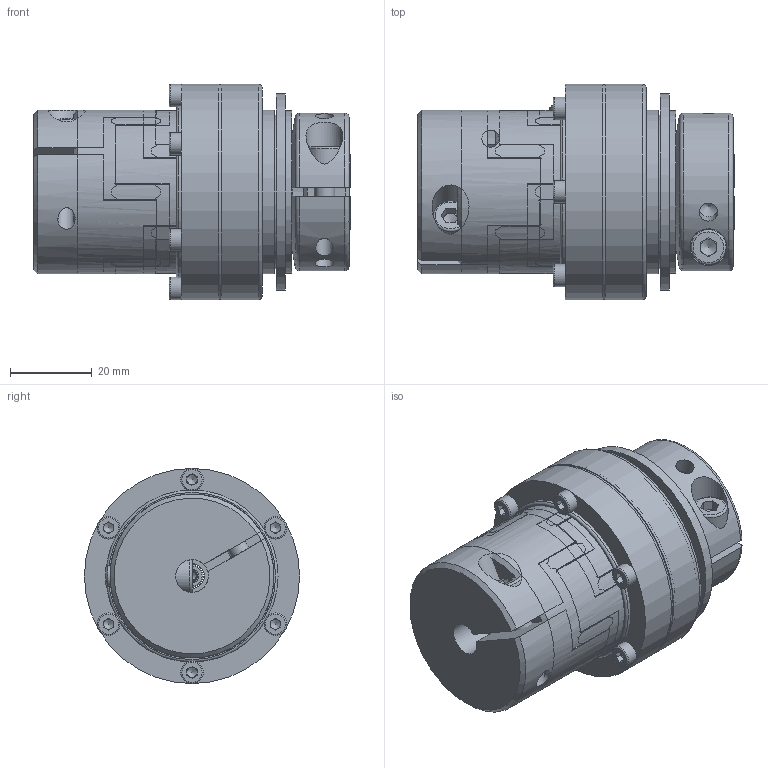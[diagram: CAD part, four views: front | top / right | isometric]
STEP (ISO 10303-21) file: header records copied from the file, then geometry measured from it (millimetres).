
FILE_DESCRIPTION( ( 'Unknown' ), '1' );
FILE_NAME( 'F:/JAKOB-STEP+IGES-Dateien/STEP-Dateien/SKB-EK/SKB-EK 12.stp', 'Unknown', ( 'Unknown' ), ( 'Unknown' ), 'XStep 1.0', 'Unknown', ' ' );
FILE_SCHEMA( ( 'CONFIG_CONTROL_DESIGN' ) );
Length unit declared in the file: millimetre
Products named in the file (16): SKB 12; Assem1; 23917257; KT101911; KT102579; KT102397; KT100050; Elastomerteil 1; kt102551
Bounding box: 77.2 x 52.5 x 52.5 mm (x, y, z)
Surface area: 117717.8 mm2
Topology: 34 solids, 34 shells, 1239 faces, 3316 edges, 2121 vertices
Faces by surface type: plane 495, cylinder 397, cone 180, torus 137, sphere 30
Full cylindrical faces by diameter (mm): 1.5 x6, 2.5 x18, 3 x24, 3.3 x3, 3.4 x12, 4 x3, 4.2 x5, 4.5 x9, 5 x5, 5.4 x2, 5.5 x15, 6 x3, 8.5 x5, 9 x5, 9.5 x2, 18 x4, 19 x3, 19.9 x3, 20 x6, 24 x2, 25.4 x3, 27.2 x6, 35.1 x6, 37.6 x6, 39.6 x3, 39.9 x3, 40 x2, 42 x8, 48 x3, 52 x3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
Entity records: 17252 total; most frequent: CARTESIAN_POINT 4389, DIRECTION 2574, ORIENTED_EDGE 2354, EDGE_CURVE 1177, AXIS2_PLACEMENT_3D 1072, VERTEX_POINT 819, EDGE_LOOP 730, FACE_OUTER_BOUND 607
